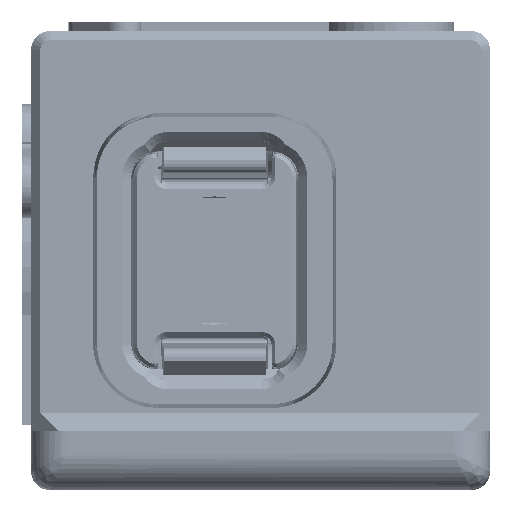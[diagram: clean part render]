
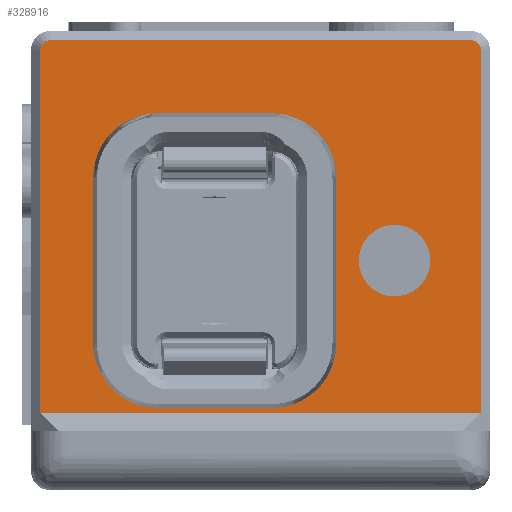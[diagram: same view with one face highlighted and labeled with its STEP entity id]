
A CAD part, left-side view. The second image highlights one B-rep face of the part: STEP entity #328916.
In plain terms, the highlighted planar face has unit normal (-1, 0, 0).
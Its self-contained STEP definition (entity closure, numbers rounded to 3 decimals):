
#3454=B_SPLINE_CURVE_WITH_KNOTS('',3,(#551101,#551102,#551103,#551104,#551105,
#551106,#551107,#551108,#551109,#551110),.UNSPECIFIED.,.F.,.F.,(4,2,1,1,
2,4),(-1.,-0.991,-0.798,-0.605,-0.025,
0.),.UNSPECIFIED.);
#3455=B_SPLINE_CURVE_WITH_KNOTS('',3,(#551114,#551115,#551116,#551117,#551118,
#551119,#551120,#551121,#551122,#551123),.UNSPECIFIED.,.F.,.F.,(4,2,1,1,
2,4),(-1.,-0.985,-0.599,-0.406,-0.019,
0.),.UNSPECIFIED.);
#3456=B_SPLINE_CURVE_WITH_KNOTS('',3,(#551127,#551128,#551129,#551130,#551131,
#551132,#551133,#551134,#551135,#551136),.UNSPECIFIED.,.F.,.F.,(4,2,1,1,
2,4),(-1.,-0.991,-0.605,-0.412,-0.025,
0.),.UNSPECIFIED.);
#3457=B_SPLINE_CURVE_WITH_KNOTS('',3,(#551140,#551141,#551142,#551143,#551144,
#551145,#551146,#551147,#551148,#551149),.UNSPECIFIED.,.F.,.F.,(4,2,1,1,
2,4),(-1.,-0.985,-0.792,-0.599,-0.019,
0.),.UNSPECIFIED.);
#10679=FACE_BOUND('',#55881,.T.);
#10680=FACE_BOUND('',#55882,.T.);
#16397=CIRCLE('',#355076,0.5);
#16398=CIRCLE('',#355077,0.5);
#16399=CIRCLE('',#355078,1.95);
#36580=FACE_OUTER_BOUND('',#55880,.T.);
#55880=EDGE_LOOP('',(#291195,#291196,#291197,#291198,#291199,#291200));
#55881=EDGE_LOOP('',(#291201));
#55882=EDGE_LOOP('',(#291202,#291203,#291204,#291205,#291206,#291207,#291208,
#291209));
#93186=LINE('',#550976,#131042);
#93203=LINE('',#551087,#131059);
#93205=LINE('',#551091,#131061);
#93206=LINE('',#551095,#131062);
#93207=LINE('',#551112,#131063);
#93208=LINE('',#551125,#131064);
#93209=LINE('',#551138,#131065);
#93210=LINE('',#551150,#131066);
#131042=VECTOR('',#438705,10.);
#131059=VECTOR('',#438756,10.);
#131061=VECTOR('',#438760,10.);
#131062=VECTOR('',#438763,10.);
#131063=VECTOR('',#438768,10.);
#131064=VECTOR('',#438769,10.);
#131065=VECTOR('',#438770,10.);
#131066=VECTOR('',#438771,10.);
#160457=VERTEX_POINT('',#550969);
#160460=VERTEX_POINT('',#550974);
#160477=VERTEX_POINT('',#551086);
#160478=VERTEX_POINT('',#551090);
#160479=VERTEX_POINT('',#551092);
#160480=VERTEX_POINT('',#551094);
#160481=VERTEX_POINT('',#551097);
#160482=VERTEX_POINT('',#551099);
#160483=VERTEX_POINT('',#551100);
#160484=VERTEX_POINT('',#551111);
#160485=VERTEX_POINT('',#551113);
#160486=VERTEX_POINT('',#551124);
#160487=VERTEX_POINT('',#551126);
#160488=VERTEX_POINT('',#551137);
#160489=VERTEX_POINT('',#551139);
#204765=EDGE_CURVE('',#160460,#160457,#93186,.T.);
#204791=EDGE_CURVE('',#160457,#160477,#93203,.T.);
#204793=EDGE_CURVE('',#160478,#160460,#93205,.T.);
#204794=EDGE_CURVE('',#160479,#160478,#16397,.T.);
#204795=EDGE_CURVE('',#160480,#160479,#93206,.T.);
#204796=EDGE_CURVE('',#160477,#160480,#16398,.T.);
#204797=EDGE_CURVE('',#160481,#160481,#16399,.T.);
#204798=EDGE_CURVE('',#160482,#160483,#3454,.T.);
#204799=EDGE_CURVE('',#160483,#160484,#93207,.T.);
#204800=EDGE_CURVE('',#160484,#160485,#3455,.T.);
#204801=EDGE_CURVE('',#160485,#160486,#93208,.T.);
#204802=EDGE_CURVE('',#160486,#160487,#3456,.T.);
#204803=EDGE_CURVE('',#160487,#160488,#93209,.T.);
#204804=EDGE_CURVE('',#160488,#160489,#3457,.T.);
#204805=EDGE_CURVE('',#160489,#160482,#93210,.T.);
#291195=ORIENTED_EDGE('',*,*,#204765,.F.);
#291196=ORIENTED_EDGE('',*,*,#204793,.F.);
#291197=ORIENTED_EDGE('',*,*,#204794,.F.);
#291198=ORIENTED_EDGE('',*,*,#204795,.F.);
#291199=ORIENTED_EDGE('',*,*,#204796,.F.);
#291200=ORIENTED_EDGE('',*,*,#204791,.F.);
#291201=ORIENTED_EDGE('',*,*,#204797,.T.);
#291202=ORIENTED_EDGE('',*,*,#204798,.T.);
#291203=ORIENTED_EDGE('',*,*,#204799,.T.);
#291204=ORIENTED_EDGE('',*,*,#204800,.T.);
#291205=ORIENTED_EDGE('',*,*,#204801,.T.);
#291206=ORIENTED_EDGE('',*,*,#204802,.T.);
#291207=ORIENTED_EDGE('',*,*,#204803,.T.);
#291208=ORIENTED_EDGE('',*,*,#204804,.T.);
#291209=ORIENTED_EDGE('',*,*,#204805,.T.);
#311228=PLANE('',#355075);
#328916=ADVANCED_FACE('',(#36580,#10679,#10680),#311228,.T.);
#355075=AXIS2_PLACEMENT_3D('',#551089,#438758,#438759);
#355076=AXIS2_PLACEMENT_3D('',#551093,#438761,#438762);
#355077=AXIS2_PLACEMENT_3D('',#551096,#438764,#438765);
#355078=AXIS2_PLACEMENT_3D('',#551098,#438766,#438767);
#438705=DIRECTION('',(0.,1.,0.));
#438756=DIRECTION('',(0.,0.,1.));
#438758=DIRECTION('center_axis',(-1.,0.,0.));
#438759=DIRECTION('ref_axis',(0.,0.,1.));
#438760=DIRECTION('',(0.,0.,-1.));
#438761=DIRECTION('center_axis',(1.,0.,0.));
#438762=DIRECTION('ref_axis',(0.,-0.707,0.707));
#438763=DIRECTION('',(0.,-1.,0.));
#438764=DIRECTION('center_axis',(1.,0.,0.));
#438765=DIRECTION('ref_axis',(0.,0.707,0.707));
#438766=DIRECTION('center_axis',(1.,0.,0.));
#438767=DIRECTION('ref_axis',(0.,0.,1.));
#438768=DIRECTION('',(0.,0.,1.));
#438769=DIRECTION('',(0.,-1.,0.));
#438770=DIRECTION('',(0.,0.,-1.));
#438771=DIRECTION('',(0.,1.,0.));
#550969=CARTESIAN_POINT('',(-274.75,11.5,-8.3));
#550974=CARTESIAN_POINT('',(-274.75,-12.5,-8.3));
#550976=CARTESIAN_POINT('',(-274.75,-6.75,-8.3));
#551086=CARTESIAN_POINT('',(-274.75,11.5,11.5));
#551087=CARTESIAN_POINT('',(-274.75,11.5,6.25));
#551089=CARTESIAN_POINT('Origin',(-274.75,-0.5,0.));
#551090=CARTESIAN_POINT('',(-274.75,-12.5,11.5));
#551091=CARTESIAN_POINT('',(-274.75,-12.5,-6.25));
#551092=CARTESIAN_POINT('',(-274.75,-12.,12.));
#551093=CARTESIAN_POINT('Origin',(-274.75,-12.,11.5));
#551094=CARTESIAN_POINT('',(-274.75,11.,12.));
#551095=CARTESIAN_POINT('',(-274.75,-6.75,12.));
#551096=CARTESIAN_POINT('Origin',(-274.75,11.,11.5));
#551097=CARTESIAN_POINT('',(-274.75,-7.8,-1.95));
#551098=CARTESIAN_POINT('Origin',(-274.75,-7.8,0.));
#551099=CARTESIAN_POINT('',(-274.75,5.12,-8.025));
#551100=CARTESIAN_POINT('',(-274.75,8.62,-4.525));
#551101=CARTESIAN_POINT('Ctrl Pts',(-274.75,5.12,-8.025));
#551102=CARTESIAN_POINT('Ctrl Pts',(-274.75,5.136,-8.025));
#551103=CARTESIAN_POINT('Ctrl Pts',(-274.75,5.151,-8.025));
#551104=CARTESIAN_POINT('Ctrl Pts',(-274.75,5.521,-8.02));
#551105=CARTESIAN_POINT('Ctrl Pts',(-274.75,6.224,-7.9));
#551106=CARTESIAN_POINT('Ctrl Pts',(-274.75,7.832,-7.097));
#551107=CARTESIAN_POINT('Ctrl Pts',(-274.75,8.579,-5.729));
#551108=CARTESIAN_POINT('Ctrl Pts',(-274.75,8.619,-4.618));
#551109=CARTESIAN_POINT('Ctrl Pts',(-274.75,8.62,-4.572));
#551110=CARTESIAN_POINT('Ctrl Pts',(-274.75,8.62,-4.525));
#551111=CARTESIAN_POINT('',(-274.75,8.62,4.525));
#551112=CARTESIAN_POINT('',(-274.75,8.62,2.262));
#551113=CARTESIAN_POINT('',(-274.75,5.12,8.025));
#551114=CARTESIAN_POINT('Ctrl Pts',(-274.75,8.62,4.525));
#551115=CARTESIAN_POINT('Ctrl Pts',(-274.75,8.62,4.552));
#551116=CARTESIAN_POINT('Ctrl Pts',(-274.75,8.62,4.579));
#551117=CARTESIAN_POINT('Ctrl Pts',(-274.75,8.603,5.314));
#551118=CARTESIAN_POINT('Ctrl Pts',(-274.75,8.244,6.364));
#551119=CARTESIAN_POINT('Ctrl Pts',(-274.75,6.981,7.636));
#551120=CARTESIAN_POINT('Ctrl Pts',(-274.75,5.933,8.002));
#551121=CARTESIAN_POINT('Ctrl Pts',(-274.75,5.19,8.024));
#551122=CARTESIAN_POINT('Ctrl Pts',(-274.75,5.155,8.025));
#551123=CARTESIAN_POINT('Ctrl Pts',(-274.75,5.12,8.025));
#551124=CARTESIAN_POINT('',(-274.75,-1.12,8.025));
#551125=CARTESIAN_POINT('',(-274.75,-0.81,8.025));
#551126=CARTESIAN_POINT('',(-274.75,-4.62,4.525));
#551127=CARTESIAN_POINT('Ctrl Pts',(-274.75,-1.12,8.025));
#551128=CARTESIAN_POINT('Ctrl Pts',(-274.75,-1.136,8.025));
#551129=CARTESIAN_POINT('Ctrl Pts',(-274.75,-1.151,8.025));
#551130=CARTESIAN_POINT('Ctrl Pts',(-274.75,-1.875,
8.015));
#551131=CARTESIAN_POINT('Ctrl Pts',(-274.75,-2.928,7.666));
#551132=CARTESIAN_POINT('Ctrl Pts',(-274.75,-4.212,
6.416));
#551133=CARTESIAN_POINT('Ctrl Pts',(-274.75,-4.589,5.373));
#551134=CARTESIAN_POINT('Ctrl Pts',(-274.75,-4.619,4.618));
#551135=CARTESIAN_POINT('Ctrl Pts',(-274.75,-4.62,4.572));
#551136=CARTESIAN_POINT('Ctrl Pts',(-274.75,-4.62,4.525));
#551137=CARTESIAN_POINT('',(-274.75,-4.62,-4.525));
#551138=CARTESIAN_POINT('',(-274.75,-4.62,-2.262));
#551139=CARTESIAN_POINT('',(-274.75,-1.12,-8.025));
#551140=CARTESIAN_POINT('Ctrl Pts',(-274.75,-4.62,-4.525));
#551141=CARTESIAN_POINT('Ctrl Pts',(-274.75,-4.62,-4.552));
#551142=CARTESIAN_POINT('Ctrl Pts',(-274.75,-4.62,-4.579));
#551143=CARTESIAN_POINT('Ctrl Pts',(-274.75,-4.611,-4.961));
#551144=CARTESIAN_POINT('Ctrl Pts',(-274.75,-4.484,-5.662));
#551145=CARTESIAN_POINT('Ctrl Pts',(-274.75,-3.666,-7.262));
#551146=CARTESIAN_POINT('Ctrl Pts',(-274.75,-2.29,
-7.996));
#551147=CARTESIAN_POINT('Ctrl Pts',(-274.75,-1.19,-8.024));
#551148=CARTESIAN_POINT('Ctrl Pts',(-274.75,-1.155,-8.025));
#551149=CARTESIAN_POINT('Ctrl Pts',(-274.75,-1.12,-8.025));
#551150=CARTESIAN_POINT('',(-274.75,2.31,-8.025));
